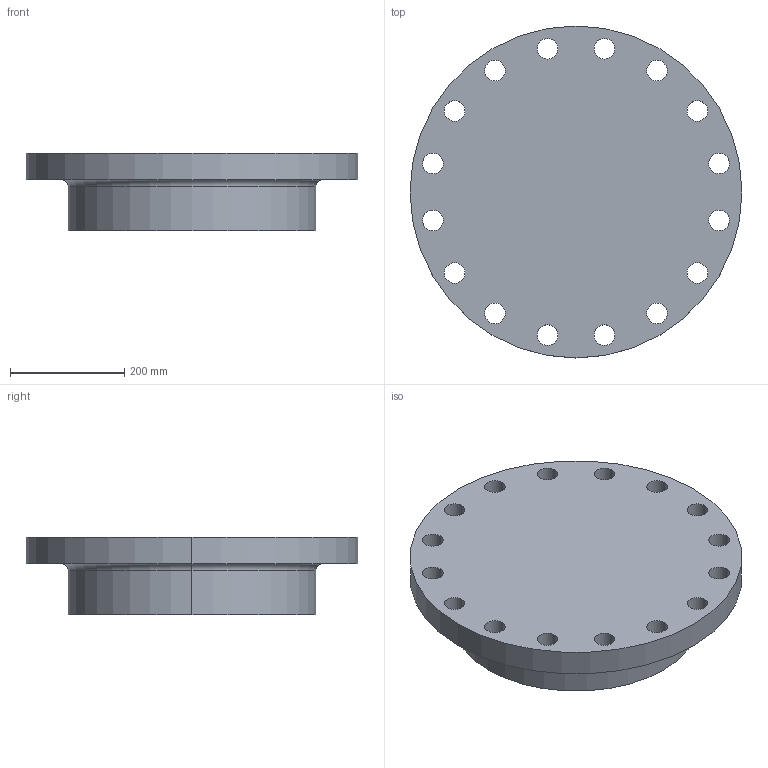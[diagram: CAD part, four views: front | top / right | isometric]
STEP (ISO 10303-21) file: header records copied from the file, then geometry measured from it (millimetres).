
FILE_DESCRIPTION (( 'STEP AP214' ), '1' );
FILE_NAME ('PN40 DN350 Type 21(i) - Type A Face.STEP', '2019-01-05T21:47:13', ( '' ), ( '' ), 'SwSTEP 2.0', 'SolidWorks 2019', '' );
FILE_SCHEMA (( 'AUTOMOTIVE_DESIGN' ));
Length unit declared in the file: millimetre
Products named in the file (1): PN40 DN350 Type 21(i) - Type A Face
Bounding box: 580 x 580 x 135 mm (x, y, z)
Volume: 24491968.2 mm3; surface area: 776763.2 mm2
Topology: 1 solids, 1 shells, 41 faces, 112 edges, 74 vertices
Faces by surface type: cylinder 36, plane 3, torus 2
Entity records: 1444 total; most frequent: DIRECTION 272, CARTESIAN_POINT 228, ORIENTED_EDGE 224, AXIS2_PLACEMENT_3D 118, EDGE_CURVE 112, CIRCLE 76, VERTEX_POINT 74, EDGE_LOOP 74
